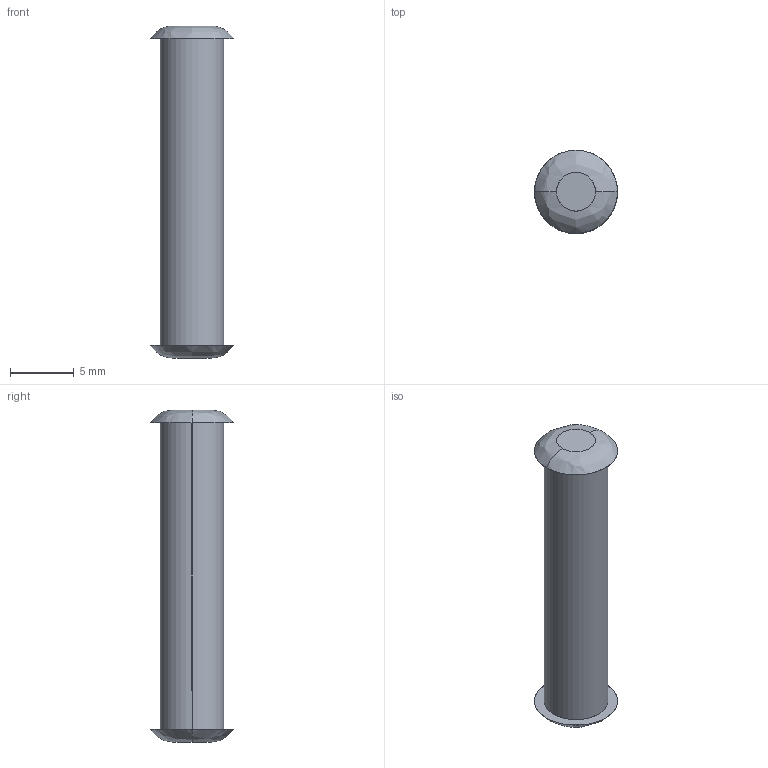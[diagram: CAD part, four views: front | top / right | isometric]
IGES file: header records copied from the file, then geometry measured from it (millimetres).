
Start section: SolidWorks IGES FILE using analytic representation for surfaces
Global section: file name: C:\Documents and Settings\lecoutey\Bureau\GR 2003\2003.040.10.IGS; native system: SolidWorks 2004 by SolidWorks Corporation; preprocessor: Version 5.3; author: lecoutey; date: 050405.093756; units: millimetre
Bounding box: 6.5 x 6.5 x 26 mm (x, y, z)
Surface area: 483.6 mm2 (no closed solid volume)
Topology: 0 solids, 0 shells, 10 faces, 216 edges, 216 vertices
Faces by surface type: bspline 8, revolution 2
